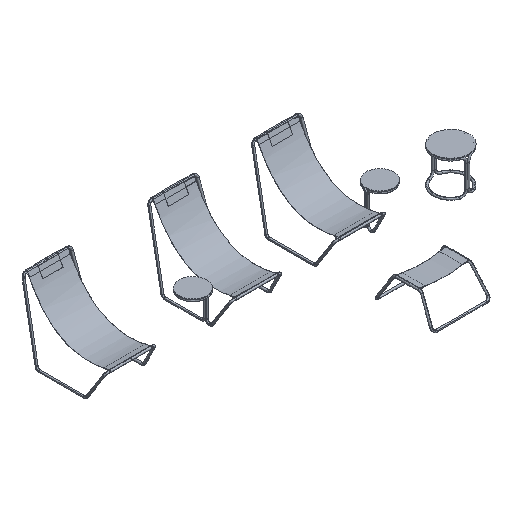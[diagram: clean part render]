
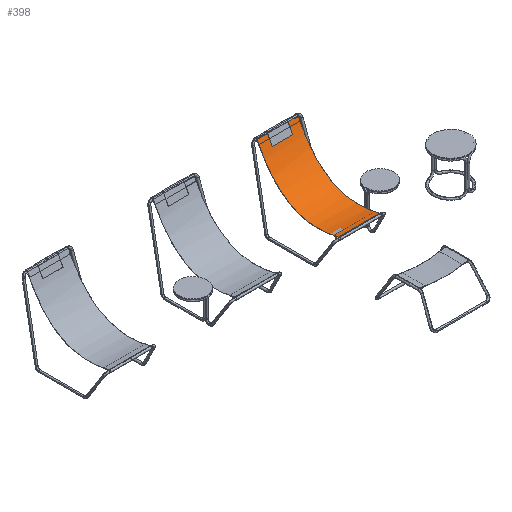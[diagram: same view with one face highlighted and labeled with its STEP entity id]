
A CAD part, isometric view. The second image highlights one B-rep face of the part: STEP entity #398.
In plain terms, the highlighted free-form (B-spline) face has degree [3, 1] with [11, 2] control points.
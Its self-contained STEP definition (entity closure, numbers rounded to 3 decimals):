
#38=B_SPLINE_SURFACE_WITH_KNOTS('',3,1,((#28129,#28130),(#28131,#28132),
(#28133,#28134),(#28135,#28136),(#28137,#28138),(#28139,#28140),(#28141,
#28142),(#28143,#28144),(#28145,#28146),(#28147,#28148),(#28149,#28150)),
 .UNSPECIFIED.,.F.,.F.,.F.,(4,1,1,1,1,1,1,1,4),(2,2),(44.699,
234.303,423.908,613.512,803.116,992.721,
1182.325,1371.929,1561.534),(0.,501.952),
 .UNSPECIFIED.);
#398=ADVANCED_FACE('',(#773),#38,.T.);
#773=FACE_OUTER_BOUND('',#1149,.T.);
#1149=EDGE_LOOP('',(#2504,#2505,#2506,#2507));
#2504=ORIENTED_EDGE('',*,*,#3448,.F.);
#2505=ORIENTED_EDGE('',*,*,#3452,.T.);
#2506=ORIENTED_EDGE('',*,*,#3450,.T.);
#2507=ORIENTED_EDGE('',*,*,#3451,.T.);
#3448=EDGE_CURVE('',#4504,#4505,#4080,.T.);
#3450=EDGE_CURVE('',#4506,#4507,#5120,.T.);
#3451=EDGE_CURVE('',#4507,#4505,#5121,.T.);
#3452=EDGE_CURVE('',#4504,#4506,#5122,.T.);
#4080=(
BOUNDED_CURVE()
B_SPLINE_CURVE(1,(#28571,#28572),.UNSPECIFIED.,.F.,.F.)
B_SPLINE_CURVE_WITH_KNOTS((2,2),(0.,501.952),.UNSPECIFIED.)
CURVE()
GEOMETRIC_REPRESENTATION_ITEM()
RATIONAL_B_SPLINE_CURVE((1.,1.))
REPRESENTATION_ITEM('')
);
#4504=VERTEX_POINT('',#28452);
#4505=VERTEX_POINT('',#28453);
#4506=VERTEX_POINT('',#28454);
#4507=VERTEX_POINT('',#28455);
#5120=B_SPLINE_CURVE_WITH_KNOTS('',1,(#28610,#28611),.UNSPECIFIED.,.F.,
 .F.,(2,2),(0.,501.952),.UNSPECIFIED.);
#5121=B_SPLINE_CURVE_WITH_KNOTS('',3,(#28612,#28613,#28614,#28615,#28616,
#28617,#28618,#28619,#28620,#28621,#28622),.UNSPECIFIED.,.F.,.F.,(4,1,1,
1,1,1,1,1,4),(-1561.457,-1371.929,-1182.325,-992.721,
-803.116,-613.512,-423.908,-234.303,
-44.906),.UNSPECIFIED.);
#5122=B_SPLINE_CURVE_WITH_KNOTS('',3,(#28623,#28624,#28625,#28626,#28627,
#28628,#28629,#28630,#28631,#28632,#28633),.UNSPECIFIED.,.F.,.F.,(4,1,1,
1,1,1,1,1,4),(44.906,234.303,423.908,613.512,
803.116,992.721,1182.325,1371.929,1561.457),
 .UNSPECIFIED.);
#28129=CARTESIAN_POINT('',(21962.538,-8824.021,328.734));
#28130=CARTESIAN_POINT('',(21477.671,-8824.021,328.734));
#28131=CARTESIAN_POINT('',(21962.538,-8774.346,315.504));
#28132=CARTESIAN_POINT('',(21477.671,-8774.346,315.504));
#28133=CARTESIAN_POINT('',(21962.538,-8676.946,296.358));
#28134=CARTESIAN_POINT('',(21477.671,-8676.946,296.358));
#28135=CARTESIAN_POINT('',(21962.538,-8537.207,291.119));
#28136=CARTESIAN_POINT('',(21477.671,-8537.207,291.119));
#28137=CARTESIAN_POINT('',(21962.538,-8404.323,310.884));
#28138=CARTESIAN_POINT('',(21477.671,-8404.323,310.884));
#28139=CARTESIAN_POINT('',(21962.538,-8278.756,357.192));
#28140=CARTESIAN_POINT('',(21477.671,-8278.756,357.192));
#28141=CARTESIAN_POINT('',(21962.538,-8160.959,431.616));
#28142=CARTESIAN_POINT('',(21477.671,-8160.959,431.616));
#28143=CARTESIAN_POINT('',(21962.538,-8051.406,535.757));
#28144=CARTESIAN_POINT('',(21477.671,-8051.406,535.757));
#28145=CARTESIAN_POINT('',(21962.538,-7950.606,671.214));
#28146=CARTESIAN_POINT('',(21477.671,-7950.606,671.214));
#28147=CARTESIAN_POINT('',(21962.538,-7889.594,783.448));
#28148=CARTESIAN_POINT('',(21477.671,-7889.594,783.448));
#28149=CARTESIAN_POINT('',(21962.538,-7860.723,845.309));
#28150=CARTESIAN_POINT('',(21477.671,-7860.723,845.309));
#28452=CARTESIAN_POINT('',(21962.538,-8823.859,328.691));
#28453=CARTESIAN_POINT('',(21477.671,-8823.859,328.691));
#28454=CARTESIAN_POINT('',(21962.538,-7860.758,845.233));
#28455=CARTESIAN_POINT('',(21477.671,-7860.758,845.233));
#28571=CARTESIAN_POINT('',(21962.538,-8823.859,328.691));
#28572=CARTESIAN_POINT('',(21477.671,-8823.859,328.691));
#28610=CARTESIAN_POINT('',(21962.538,-7860.758,845.233));
#28611=CARTESIAN_POINT('',(21477.671,-7860.758,845.233));
#28612=CARTESIAN_POINT('',(21477.671,-7860.758,845.233));
#28613=CARTESIAN_POINT('',(21477.671,-7889.619,783.403));
#28614=CARTESIAN_POINT('',(21477.671,-7950.62,671.195));
#28615=CARTESIAN_POINT('',(21477.671,-8051.406,535.757));
#28616=CARTESIAN_POINT('',(21477.671,-8160.959,431.616));
#28617=CARTESIAN_POINT('',(21477.671,-8278.756,357.192));
#28618=CARTESIAN_POINT('',(21477.671,-8404.323,310.884));
#28619=CARTESIAN_POINT('',(21477.671,-8537.207,291.119));
#28620=CARTESIAN_POINT('',(21477.671,-8676.895,296.357));
#28621=CARTESIAN_POINT('',(21477.671,-8774.24,315.483));
#28622=CARTESIAN_POINT('',(21477.671,-8823.859,328.691));
#28623=CARTESIAN_POINT('',(21962.538,-8823.859,328.691));
#28624=CARTESIAN_POINT('',(21962.538,-8774.24,315.483));
#28625=CARTESIAN_POINT('',(21962.538,-8676.895,296.357));
#28626=CARTESIAN_POINT('',(21962.538,-8537.207,291.119));
#28627=CARTESIAN_POINT('',(21962.538,-8404.323,310.884));
#28628=CARTESIAN_POINT('',(21962.538,-8278.756,357.192));
#28629=CARTESIAN_POINT('',(21962.538,-8160.959,431.616));
#28630=CARTESIAN_POINT('',(21962.538,-8051.406,535.757));
#28631=CARTESIAN_POINT('',(21962.538,-7950.62,671.195));
#28632=CARTESIAN_POINT('',(21962.538,-7889.619,783.403));
#28633=CARTESIAN_POINT('',(21962.538,-7860.758,845.233));
